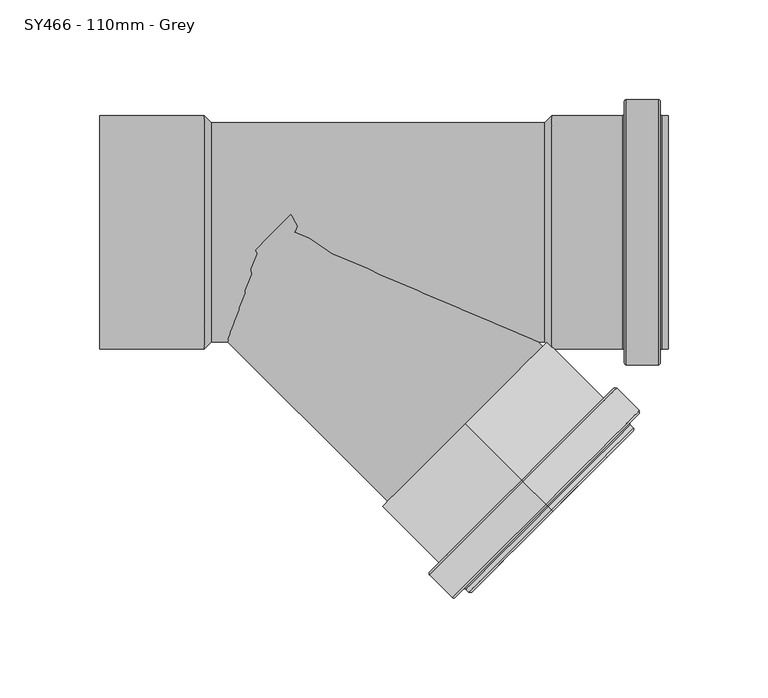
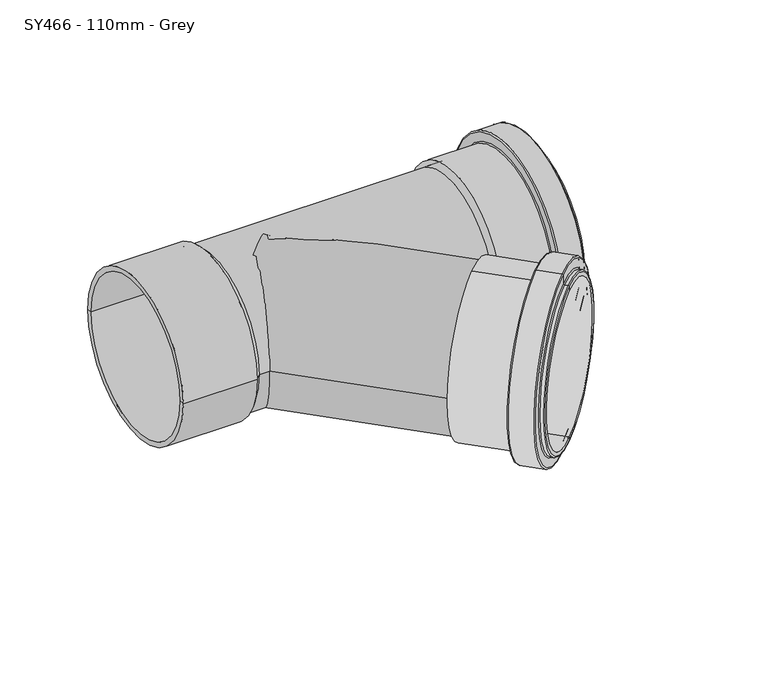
"""IFC4 building model written with IfcOpenShell, lengths in millimetres: pipe fitting geometry, MarleyPlumbingAndDrainage_PipeFitting_EqualBranch45PushFit : SY466 - 110mm - Grey."""

from ifc_helpers import new_model, si_unit, point, frame, origin, place, context, project, spatial, polyline, circle_curve, ellipse_curve, trimmed, source, transform, mapped, element, save
from ifc_brep_helpers import plane_surface, cylinder_surface, revolved_surface, advanced_brep


def sy466_110mm_grey_a51431d2(model_context):
    return source(origin(), model_context, "Body", "AdvancedBrep", [
        advanced_brep(
        [(-101.8253818, -58.5, 0.0), (-101.8253818, 58.5, 0.0), (-49.3253818, 58.5, 0.0), (-49.3253818, -58.5, 0.0), (-101.8253818, -55.0, 0.0), (-101.8253818, 55.0, 0.0), (-49.3253818, -55.0, 0.0), (-49.3253818, 55.0, 0.0), (-49.3253818, 0.0, 0.0), (-45.8253818, -55.0, 0.0), (-45.8253818, 55.0, 0.0), (-45.8253818, 0.0, 0.0)],
        [
            (0, 1, circle_curve(frame((-101.8253818, 0.0, 0.0), z_axis=(1.0, 0.0, 0.0), x_axis=(0.0, 1.0, 0.0)), 58.5)),
            (1, 2),
            (2, 3, circle_curve(frame((-49.3253818, 0.0, 0.0), z_axis=(-1.0, 0.0, 0.0), x_axis=(0.0, 1.0, 0.0)), 58.5)),
            (3, 0),
            (1, 0, circle_curve(frame((-101.8253818, 0.0, 0.0), z_axis=(1.0, 0.0, 0.0), x_axis=(0.0, 1.0, 0.0)), 58.5)),
            (3, 2, circle_curve(frame((-49.3253818, 0.0, 0.0), z_axis=(-1.0, 0.0, 0.0), x_axis=(0.0, 1.0, 0.0)), 58.5)),
            (4, 5, circle_curve(frame((-101.8253818, 0.0, 0.0), z_axis=(1.0, 0.0, 0.0), x_axis=(0.0, 1.0, 0.0)), 55.0)),
            (5, 1),
            (0, 4),
            (5, 4, circle_curve(frame((-101.8253818, 0.0, 0.0), z_axis=(1.0, 0.0, 0.0), x_axis=(0.0, 1.0, 0.0)), 55.0)),
            (6, 7, circle_curve(frame((-49.3253818, 0.0, 0.0), z_axis=(1.0, 0.0, 0.0), x_axis=(0.0, 1.0, 0.0)), 55.0)),
            (7, 5),
            (4, 6),
            (7, 6, circle_curve(frame((-49.3253818, 0.0, 0.0), z_axis=(1.0, 0.0, 0.0), x_axis=(0.0, 1.0, 0.0)), 55.0)),
            (8, 7),
            (6, 8),
            (9, 10, circle_curve(frame((-45.8253818, 0.0, 0.0), z_axis=(1.0, 0.0, 0.0), x_axis=(0.0, 1.0, 0.0)), 55.0)),
            (10, 11),
            (11, 9),
            (10, 9, circle_curve(frame((-45.8253818, 0.0, 0.0), z_axis=(1.0, 0.0, 0.0), x_axis=(0.0, 1.0, 0.0)), 55.0)),
            (2, 10),
            (9, 3),
        ],
        [
            cylinder_surface(frame((2035.7414062, 0.0, 0.0), z_axis=(-1.0, 0.0, 0.0), x_axis=(0.0, 1.0, 0.0)), 58.5),
            plane_surface(frame((-101.8253818, 0.0, 0.0), z_axis=(-1.0, 0.0, 0.0), x_axis=(0.0, 1.0, 0.0))),
            revolved_surface(polyline([(-101.82538180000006, 55.0, 0.0), (-49.32538180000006, 55.0, 0.0)]), (2035.7414062, 0.0, 0.0), (-1.0, 0.0, 0.0)),
            plane_surface(frame((-49.3253818, 0.0, 0.0), z_axis=(-1.0, 0.0, 0.0), x_axis=(0.0, 1.0, 0.0))),
            plane_surface(frame((-45.8253818, 0.0, 0.0), z_axis=(1.0, 0.0, 0.0), x_axis=(0.0, 1.0, 0.0))),
            revolved_surface(polyline([(-45.8253818, 55.0, 0.0), (-49.3253818, 58.5, 0.0)]), (2035.7414062, 0.0, 0.0), (-1.0, 0.0, 0.0)),
        ],
        [
            (0, [[1, 2, 3, 4]]),
            (0, [[5, -4, 6, -2]]),
            (1, [[7, 8, -1, 9]]),
            (1, [[10, -9, -5, -8]]),
            (2, [[11, 12, -7, 13]]),
            (2, [[14, -13, -10, -12]]),
            (3, [[15, -11, 16]]),
            (3, [[-16, -14, -15]]),
            (4, [[17, 18, 19]]),
            (4, [[20, -19, -18]]),
            (5, [[-3, 21, -17, 22]]),
            (5, [[-6, -22, -20, -21]]),
        ],
    ),
        advanced_brep(
        [(81.3411404, -96.1665222, -58.5), (81.3411404, -96.1665222, 58.5), (81.3411404, -96.1665222, 55.0), (81.3411404, -96.1665222, -55.0), (109.6254117, -124.4507935, -58.5), (109.6254117, -124.4507935, 58.5), (109.6254117, -124.4507935, -65.5), (109.6254117, -124.4507935, 65.5), (121.6462269, -136.4716088, -66.5), (121.6462269, -136.4716088, 66.5), (110.3325184, -125.1579003, 66.5), (110.3325184, -125.1579003, -66.5), (122.3533337, -137.1787156, -59.5), (122.3533337, -137.1787156, 59.5), (122.3533337, -137.1787156, 65.5), (122.3533337, -137.1787156, -65.5), (124.4746541, -139.3000359, -58.5), (124.4746541, -139.3000359, 58.5), (123.0604405, -137.8858223, 58.5), (123.0604405, -137.8858223, -58.5), (125.1817609, -140.0071427, -55.0), (125.1817609, -140.0071427, 55.0), (125.1817609, -140.0071427, 57.5), (125.1817609, -140.0071427, -57.5)],
        [
            (0, 1, circle_curve(frame((81.3411404, -96.1665222, 0.0), z_axis=(-0.7071067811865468, 0.7071067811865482, 0.0), x_axis=(0.0, 0.0, 1.0000000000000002)), 58.5)),
            (1, 2),
            (2, 3, circle_curve(frame((81.3411404, -96.1665222, 0.0), z_axis=(0.7071067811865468, -0.7071067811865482, 0.0), x_axis=(0.0, 0.0, 1.0000000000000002)), 55.0)),
            (3, 0),
            (1, 0, circle_curve(frame((81.3411404, -96.1665222, 0.0), z_axis=(-0.7071067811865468, 0.7071067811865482, 0.0), x_axis=(0.0, 0.0, 1.0000000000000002)), 58.5)),
            (3, 2, circle_curve(frame((81.3411404, -96.1665222, 0.0), z_axis=(0.7071067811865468, -0.7071067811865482, 0.0), x_axis=(0.0, 0.0, 1.0000000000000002)), 55.0)),
            (4, 5, circle_curve(frame((109.6254117, -124.4507935, 0.0), z_axis=(-0.7071067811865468, 0.7071067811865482, 0.0), x_axis=(0.0, 0.0, 1.0000000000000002)), 58.5)),
            (5, 1),
            (0, 4),
            (5, 4, circle_curve(frame((109.6254117, -124.4507935, 0.0), z_axis=(-0.7071067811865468, 0.7071067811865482, 0.0), x_axis=(0.0, 0.0, 1.0000000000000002)), 58.5)),
            (6, 7, circle_curve(frame((109.6254117, -124.4507935, 0.0), z_axis=(-0.7071067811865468, 0.7071067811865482, 0.0), x_axis=(0.0, 0.0, 1.0000000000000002)), 65.5)),
            (7, 5),
            (4, 6),
            (7, 6, circle_curve(frame((109.6254117, -124.4507935, 0.0), z_axis=(-0.7071067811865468, 0.7071067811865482, 0.0), x_axis=(0.0, 0.0, 1.0000000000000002)), 65.5)),
            (8, 9, circle_curve(frame((121.6462269, -136.4716088, 0.0), z_axis=(-0.7071067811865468, 0.7071067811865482, 0.0), x_axis=(0.0, 0.0, 1.0000000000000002)), 66.5)),
            (9, 10),
            (10, 11, circle_curve(frame((110.3325184, -125.1579003, 0.0), z_axis=(0.7071067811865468, -0.7071067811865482, 0.0), x_axis=(0.0, 0.0, 1.0000000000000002)), 66.5)),
            (11, 8),
            (9, 8, circle_curve(frame((121.6462269, -136.4716088, 0.0), z_axis=(-0.7071067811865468, 0.7071067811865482, 0.0), x_axis=(0.0, 0.0, 1.0000000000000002)), 66.5)),
            (11, 10, circle_curve(frame((110.3325184, -125.1579003, 0.0), z_axis=(0.7071067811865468, -0.7071067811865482, 0.0), x_axis=(0.0, 0.0, 1.0000000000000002)), 66.5)),
            (12, 13, circle_curve(frame((122.3533337, -137.1787156, 0.0), z_axis=(-0.7071067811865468, 0.7071067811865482, 0.0), x_axis=(0.0, 0.0, 1.0000000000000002)), 59.5)),
            (13, 14),
            (14, 15, circle_curve(frame((122.3533337, -137.1787156, 0.0), z_axis=(0.7071067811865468, -0.7071067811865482, 0.0), x_axis=(0.0, 0.0, 1.0000000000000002)), 65.5)),
            (15, 12),
            (13, 12, circle_curve(frame((122.3533337, -137.1787156, 0.0), z_axis=(-0.7071067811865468, 0.7071067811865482, 0.0), x_axis=(0.0, 0.0, 1.0000000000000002)), 59.5)),
            (15, 14, circle_curve(frame((122.3533337, -137.1787156, 0.0), z_axis=(0.7071067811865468, -0.7071067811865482, 0.0), x_axis=(0.0, 0.0, 1.0000000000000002)), 65.5)),
            (16, 17, circle_curve(frame((124.4746541, -139.3000359, 0.0), z_axis=(-0.7071067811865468, 0.7071067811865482, 0.0), x_axis=(0.0, 0.0, 1.0000000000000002)), 58.5)),
            (17, 18),
            (18, 19, circle_curve(frame((123.0604405, -137.8858223, 0.0), z_axis=(0.7071067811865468, -0.7071067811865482, 0.0), x_axis=(0.0, 0.0, 1.0000000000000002)), 58.5)),
            (19, 16),
            (17, 16, circle_curve(frame((124.4746541, -139.3000359, 0.0), z_axis=(-0.7071067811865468, 0.7071067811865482, 0.0), x_axis=(0.0, 0.0, 1.0000000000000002)), 58.5)),
            (19, 18, circle_curve(frame((123.0604405, -137.8858223, 0.0), z_axis=(0.7071067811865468, -0.7071067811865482, 0.0), x_axis=(0.0, 0.0, 1.0000000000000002)), 58.5)),
            (20, 21, circle_curve(frame((125.1817609, -140.0071427, 0.0), z_axis=(-0.7071067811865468, 0.7071067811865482, 0.0), x_axis=(0.0, 0.0, 1.0000000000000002)), 55.0)),
            (21, 22),
            (22, 23, circle_curve(frame((125.1817609, -140.0071427, 0.0), z_axis=(0.7071067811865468, -0.7071067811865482, 0.0), x_axis=(0.0, 0.0, 1.0000000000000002)), 57.5)),
            (23, 20),
            (21, 20, circle_curve(frame((125.1817609, -140.0071427, 0.0), z_axis=(-0.7071067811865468, 0.7071067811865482, 0.0), x_axis=(0.0, 0.0, 1.0000000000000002)), 55.0)),
            (23, 22, circle_curve(frame((125.1817609, -140.0071427, 0.0), z_axis=(0.7071067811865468, -0.7071067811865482, 0.0), x_axis=(0.0, 0.0, 1.0000000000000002)), 57.5)),
            (2, 21),
            (20, 3),
            (10, 7, circle_curve(frame((110.3325184, -125.1579003, 65.5), z_axis=(-0.7071067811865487, -0.7071067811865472, 0.0), x_axis=(0.4999999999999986, -0.4999999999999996, 0.7071067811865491)), 1.0)),
            (6, 11, circle_curve(frame((110.3325184, -125.1579003, -65.5), z_axis=(-0.7071067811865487, -0.7071067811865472, 0.0), x_axis=(0.5000000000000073, -0.5000000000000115, -0.7071067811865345)), 1.0)),
            (14, 9, circle_curve(frame((121.6462269, -136.4716088, 65.5), z_axis=(-0.7071067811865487, -0.7071067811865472, 0.0), x_axis=(0.4999999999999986, -0.4999999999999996, 0.7071067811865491)), 1.0)),
            (8, 15, circle_curve(frame((121.6462269, -136.4716088, -65.5), z_axis=(-0.7071067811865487, -0.7071067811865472, 0.0), x_axis=(0.5000000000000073, -0.5000000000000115, -0.7071067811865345)), 1.0)),
            (18, 13, circle_curve(frame((123.0604405, -137.8858223, 59.5), z_axis=(0.7071067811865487, 0.7071067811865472, 0.0), x_axis=(0.4999999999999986, -0.4999999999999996, 0.7071067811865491)), 1.0)),
            (12, 19, circle_curve(frame((123.0604405, -137.8858223, -59.5), z_axis=(0.7071067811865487, 0.7071067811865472, 0.0), x_axis=(0.5000000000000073, -0.5000000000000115, -0.7071067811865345)), 1.0)),
            (22, 17, circle_curve(frame((124.4746541, -139.3000359, 57.5), z_axis=(-0.7071067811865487, -0.7071067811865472, 0.0), x_axis=(0.4999999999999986, -0.4999999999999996, 0.7071067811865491)), 1.0)),
            (16, 23, circle_curve(frame((124.4746541, -139.3000359, -57.5), z_axis=(-0.7071067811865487, -0.7071067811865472, 0.0), x_axis=(0.5000000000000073, -0.5000000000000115, -0.7071067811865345)), 1.0)),
        ],
        [
            plane_surface(frame((81.3411404, -96.1665222, 0.0), z_axis=(-0.7071067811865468, 0.7071067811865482, 0.0), x_axis=(0.0, 0.0, 1.0))),
            cylinder_surface(frame((159.8299931, -174.655375, 0.0), z_axis=(0.7071067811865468, -0.7071067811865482, 0.0), x_axis=(0.0, 0.0, 1.0000000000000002)), 58.5),
            plane_surface(frame((109.6254117, -124.4507935, 0.0), z_axis=(-0.7071067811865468, 0.7071067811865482, 0.0), x_axis=(0.0, 0.0, 1.0))),
            cylinder_surface(frame((159.8299931, -174.655375, 0.0), z_axis=(0.7071067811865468, -0.7071067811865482, 0.0), x_axis=(0.0, 0.0, 1.0000000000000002)), 66.5),
            plane_surface(frame((122.3533337, -137.1787156, 0.0), z_axis=(0.7071067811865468, -0.7071067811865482, 0.0), x_axis=(0.0, 0.0, 1.0))),
            plane_surface(frame((125.1817609, -140.0071427, 0.0), z_axis=(0.7071067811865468, -0.7071067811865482, 0.0), x_axis=(0.0, 0.0, 1.0))),
            revolved_surface(polyline([(125.18176085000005, -140.00714274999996, 55.000000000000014), (81.34114035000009, -96.16652224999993, 55.000000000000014)]), (159.8299931, -174.655375, 0.0), (0.7071067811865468, -0.7071067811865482, 0.0)),
            revolved_surface(trimmed(ellipse_curve(frame((110.3325184, -125.1579003, 65.5), z_axis=(0.7071067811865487, 0.7071067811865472, 0.0), x_axis=(0.4999999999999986, -0.4999999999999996, 0.7071067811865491)), 1.0, 1.0), [point((109.6254117, -124.4507935, 65.5))], [point((110.3325184, -125.1579003, 66.5))], True, "CARTESIAN"), (159.8299931, -174.655375, 0.0), (0.7071067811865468, -0.7071067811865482, 0.0)),
            revolved_surface(trimmed(ellipse_curve(frame((110.3325184, -125.1579003, 65.5), z_axis=(0.7071067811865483, 0.7071067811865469, 0.0), x_axis=(0.4999999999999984, -0.4999999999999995, 0.7071067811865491)), 1.0, 1.0), [point((109.6254117, -124.4507935, 65.5))], [point((110.3325184, -125.1579003, 66.5))], True, "CARTESIAN"), (159.8299931, -174.655375, 0.0), (0.7071067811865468, -0.7071067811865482, 0.0)),
            revolved_surface(trimmed(ellipse_curve(frame((121.6462269, -136.4716088, 65.5), z_axis=(0.7071067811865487, 0.7071067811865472, 0.0), x_axis=(0.4999999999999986, -0.4999999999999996, 0.7071067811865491)), 1.0, 1.0), [point((121.6462269, -136.4716088, 66.5))], [point((122.3533337, -137.1787156, 65.5))], True, "CARTESIAN"), (159.8299931, -174.655375, 0.0), (0.7071067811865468, -0.7071067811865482, 0.0)),
            revolved_surface(trimmed(ellipse_curve(frame((121.6462269, -136.4716088, 65.5), z_axis=(0.7071067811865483, 0.7071067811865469, 0.0), x_axis=(0.4999999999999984, -0.4999999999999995, 0.7071067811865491)), 1.0, 1.0), [point((121.6462269, -136.4716088, 66.5))], [point((122.3533337, -137.1787156, 65.5))], True, "CARTESIAN"), (159.8299931, -174.655375, 0.0), (0.7071067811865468, -0.7071067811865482, 0.0)),
            revolved_surface(trimmed(ellipse_curve(frame((123.0604405, -137.8858223, 59.5), z_axis=(-0.7071067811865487, -0.7071067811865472, 0.0), x_axis=(0.4999999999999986, -0.4999999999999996, 0.7071067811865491)), 1.0, 1.0), [point((122.3533337, -137.1787156, 59.5))], [point((123.0604405, -137.8858223, 58.5))], True, "CARTESIAN"), (159.8299931, -174.655375, 0.0), (0.7071067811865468, -0.7071067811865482, 0.0)),
            revolved_surface(trimmed(ellipse_curve(frame((123.0604405, -137.8858223, 59.5), z_axis=(-0.7071067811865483, -0.7071067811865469, 0.0), x_axis=(0.4999999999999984, -0.4999999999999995, 0.7071067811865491)), 1.0, 1.0), [point((122.3533337, -137.1787156, 59.5))], [point((123.0604405, -137.8858223, 58.5))], True, "CARTESIAN"), (159.8299931, -174.655375, 0.0), (0.7071067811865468, -0.7071067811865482, 0.0)),
            revolved_surface(trimmed(ellipse_curve(frame((124.4746541, -139.3000359, 57.5), z_axis=(0.7071067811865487, 0.7071067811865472, 0.0), x_axis=(0.4999999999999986, -0.4999999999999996, 0.7071067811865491)), 1.0, 1.0), [point((124.4746541, -139.3000359, 58.5))], [point((125.1817609, -140.0071427, 57.5))], True, "CARTESIAN"), (159.8299931, -174.655375, 0.0), (0.7071067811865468, -0.7071067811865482, 0.0)),
            revolved_surface(trimmed(ellipse_curve(frame((124.4746541, -139.3000359, 57.5), z_axis=(0.7071067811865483, 0.7071067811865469, 0.0), x_axis=(0.4999999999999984, -0.4999999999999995, 0.7071067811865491)), 1.0, 1.0), [point((124.4746541, -139.3000359, 58.5))], [point((125.1817609, -140.0071427, 57.5))], True, "CARTESIAN"), (159.8299931, -174.655375, 0.0), (0.7071067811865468, -0.7071067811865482, 0.0)),
        ],
        [
            (0, [[1, 2, 3, 4]]),
            (0, [[5, -4, 6, -2]]),
            (1, [[7, 8, -1, 9]]),
            (1, [[10, -9, -5, -8]]),
            (2, [[11, 12, -7, 13]]),
            (2, [[14, -13, -10, -12]]),
            (3, [[15, 16, 17, 18]]),
            (3, [[19, -18, 20, -16]]),
            (4, [[21, 22, 23, 24]]),
            (4, [[25, -24, 26, -22]]),
            (1, [[27, 28, 29, 30]]),
            (1, [[31, -30, 32, -28]]),
            (5, [[33, 34, 35, 36]]),
            (5, [[37, -36, 38, -34]]),
            (6, [[-3, 39, -33, 40]]),
            (6, [[-6, -40, -37, -39]]),
            (7, [[-17, 41, -11, 42]]),
            (8, [[-20, -42, -14, -41]]),
            (9, [[-23, 43, -15, 44]]),
            (10, [[-26, -44, -19, -43]]),
            (11, [[-29, 45, -21, 46]]),
            (12, [[-32, -46, -25, -45]]),
            (13, [[-35, 47, -27, 48]]),
            (14, [[-38, -48, -31, -47]]),
        ],
    ),
        advanced_brep(
        [(-45.8253818, -31.0, 33.2114438), (24.0654911, 38.890873, 0.0), (-45.8253818, -31.0, -33.2114438), (-45.8253818, -31.0, 0.0), (42.4502675, -135.0573952, 0.0), (120.2320134, -57.2756493, 0.0), (-45.8253818, -46.7817459, 0.0)],
        [
            (0, 1, circle_curve(frame((-14.8253818, 0.0, 0.0), z_axis=(-0.7071067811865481, 0.7071067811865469, 0.0), x_axis=(0.7071067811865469, 0.7071067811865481, 0.0)), 55.0)),
            (1, 2, circle_curve(frame((-14.8253818, 0.0, 0.0), z_axis=(-0.7071067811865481, 0.7071067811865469, 0.0), x_axis=(0.7071067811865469, 0.7071067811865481, 0.0)), 55.0)),
            (2, 3),
            (3, 0),
            (4, 5, circle_curve(frame((81.3411404, -96.1665222, 0.0), z_axis=(0.7071067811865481, -0.7071067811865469, 0.0), x_axis=(0.7071067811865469, 0.7071067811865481, 0.0)), 55.0)),
            (5, 4, circle_curve(frame((81.3411404, -96.1665222, 0.0), z_axis=(0.7071067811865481, -0.7071067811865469, 0.0), x_axis=(0.7071067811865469, 0.7071067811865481, 0.0)), 55.0)),
            (5, 1),
            (0, 6, ellipse_curve(frame((-45.8253818, 31.0, 0.0), z_axis=(1.0, 0.0, 0.0), x_axis=(0.0, 1.0, 0.0)), 77.7817459, 55.0)),
            (6, 4),
            (6, 2, ellipse_curve(frame((-45.8253818, 31.0, 0.0), z_axis=(1.0, 0.0, 0.0), x_axis=(0.0, 1.0, 0.0)), 77.7817459, 55.0)),
            (6, 3),
        ],
        [
            plane_surface(frame((-14.8253818, 0.0, 0.0), z_axis=(-0.7071067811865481, 0.7071067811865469, 0.0), x_axis=(0.0, 0.0, 1.0))),
            plane_surface(frame((81.3411404, -96.1665222, 0.0), z_axis=(0.7071067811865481, -0.7071067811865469, 0.0), x_axis=(0.0, 0.0, 1.0))),
            cylinder_surface(frame((-14.8253818, 0.0, 0.0), z_axis=(-0.7071067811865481, 0.7071067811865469, 0.0), x_axis=(0.7071067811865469, 0.7071067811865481, 0.0)), 55.0),
            plane_surface(frame((-45.8253818, 0.0, 0.0), z_axis=(-1.0, 0.0, 0.0), x_axis=(0.0, 1.0, 0.0))),
        ],
        [
            (0, [[1, 2, 3, 4]]),
            (1, [[5, 6]]),
            (2, [[-6, 7, -1, 8, 9]]),
            (2, [[-5, -9, 10, -2, -7]]),
            (3, [[11, -3, -10]]),
            (3, [[-11, -8, -4]]),
        ],
    ),
        advanced_brep(
        [(180.1746182, -58.5, 0.0), (180.1746182, 58.5, 0.0), (183.1746182, 58.5, 0.0), (183.1746182, -58.5, 0.0), (179.1746182, -65.5, 0.0), (179.1746182, 65.5, 0.0), (179.1746182, 59.5, 0.0), (179.1746182, -59.5, 0.0), (162.1746182, -66.5, 0.0), (162.1746182, 66.5, 0.0), (178.1746182, 66.5, 0.0), (178.1746182, -66.5, 0.0), (161.1746182, -59.5, 0.0), (161.1746182, 59.5, 0.0), (161.1746182, 65.5, 0.0), (161.1746182, -65.5, 0.0), (124.6746182, -58.5, 0.0), (124.6746182, 58.5, 0.0), (160.1746182, 58.5, 0.0), (160.1746182, -58.5, 0.0), (121.1746182, -55.0, 0.0), (121.1746182, 55.0, 0.0), (-49.3253818, -55.0, 0.0), (-49.3253818, 55.0, 0.0), (-49.3253818, 0.0, 0.0), (124.6746182, -55.0, 0.0), (124.6746182, 55.0, 0.0), (124.6746182, 0.0, 0.0), (183.1746182, -55.0, 0.0), (183.1746182, 55.0, 0.0)],
        [
            (0, 1, circle_curve(frame((180.1746182, 0.0, 0.0), z_axis=(1.0, 0.0, 0.0), x_axis=(0.0, 1.0, 0.0)), 58.5)),
            (1, 2),
            (2, 3, circle_curve(frame((183.1746182, 0.0, 0.0), z_axis=(-1.0, 0.0, 0.0), x_axis=(0.0, 1.0, 0.0)), 58.5)),
            (3, 0),
            (1, 0, circle_curve(frame((180.1746182, 0.0, 0.0), z_axis=(1.0, 0.0, 0.0), x_axis=(0.0, 1.0, 0.0)), 58.5)),
            (3, 2, circle_curve(frame((183.1746182, 0.0, 0.0), z_axis=(-1.0, 0.0, 0.0), x_axis=(0.0, 1.0, 0.0)), 58.5)),
            (4, 5, circle_curve(frame((179.1746182, 0.0, 0.0), z_axis=(1.0, 0.0, 0.0), x_axis=(0.0, 1.0, 0.0)), 65.5)),
            (5, 6),
            (6, 7, circle_curve(frame((179.1746182, 0.0, 0.0), z_axis=(-1.0, 0.0, 0.0), x_axis=(0.0, 1.0, 0.0)), 59.5)),
            (7, 4),
            (5, 4, circle_curve(frame((179.1746182, 0.0, 0.0), z_axis=(1.0, 0.0, 0.0), x_axis=(0.0, 1.0, 0.0)), 65.5)),
            (7, 6, circle_curve(frame((179.1746182, 0.0, 0.0), z_axis=(-1.0, 0.0, 0.0), x_axis=(0.0, 1.0, 0.0)), 59.5)),
            (8, 9, circle_curve(frame((162.1746182, 0.0, 0.0), z_axis=(1.0, 0.0, 0.0), x_axis=(0.0, 1.0, 0.0)), 66.5)),
            (9, 10),
            (10, 11, circle_curve(frame((178.1746182, 0.0, 0.0), z_axis=(-1.0, 0.0, 0.0), x_axis=(0.0, 1.0, 0.0)), 66.5)),
            (11, 8),
            (9, 8, circle_curve(frame((162.1746182, 0.0, 0.0), z_axis=(1.0, 0.0, 0.0), x_axis=(0.0, 1.0, 0.0)), 66.5)),
            (11, 10, circle_curve(frame((178.1746182, 0.0, 0.0), z_axis=(-1.0, 0.0, 0.0), x_axis=(0.0, 1.0, 0.0)), 66.5)),
            (12, 13, circle_curve(frame((161.1746182, 0.0, 0.0), z_axis=(1.0, 0.0, 0.0), x_axis=(0.0, 1.0, 0.0)), 59.5)),
            (13, 14),
            (14, 15, circle_curve(frame((161.1746182, 0.0, 0.0), z_axis=(-1.0, 0.0, 0.0), x_axis=(0.0, 1.0, 0.0)), 65.5)),
            (15, 12),
            (13, 12, circle_curve(frame((161.1746182, 0.0, 0.0), z_axis=(1.0, 0.0, 0.0), x_axis=(0.0, 1.0, 0.0)), 59.5)),
            (15, 14, circle_curve(frame((161.1746182, 0.0, 0.0), z_axis=(-1.0, 0.0, 0.0), x_axis=(0.0, 1.0, 0.0)), 65.5)),
            (16, 17, circle_curve(frame((124.6746182, 0.0, 0.0), z_axis=(1.0, 0.0, 0.0), x_axis=(0.0, 1.0, 0.0)), 58.5)),
            (17, 18),
            (18, 19, circle_curve(frame((160.1746182, 0.0, 0.0), z_axis=(-1.0, 0.0, 0.0), x_axis=(0.0, 1.0, 0.0)), 58.5)),
            (19, 16),
            (17, 16, circle_curve(frame((124.6746182, 0.0, 0.0), z_axis=(1.0, 0.0, 0.0), x_axis=(0.0, 1.0, 0.0)), 58.5)),
            (19, 18, circle_curve(frame((160.1746182, 0.0, 0.0), z_axis=(-1.0, 0.0, 0.0), x_axis=(0.0, 1.0, 0.0)), 58.5)),
            (20, 21, circle_curve(frame((121.1746182, 0.0, 0.0), z_axis=(1.0, 0.0, 0.0), x_axis=(0.0, 1.0, 0.0)), 55.0)),
            (21, 17),
            (16, 20),
            (21, 20, circle_curve(frame((121.1746182, 0.0, 0.0), z_axis=(1.0, 0.0, 0.0), x_axis=(0.0, 1.0, 0.0)), 55.0)),
            (22, 23, circle_curve(frame((-49.3253818, 0.0, 0.0), z_axis=(1.0, 0.0, 0.0), x_axis=(0.0, 1.0, 0.0)), 55.0)),
            (23, 21),
            (20, 22),
            (23, 22, circle_curve(frame((-49.3253818, 0.0, 0.0), z_axis=(1.0, 0.0, 0.0), x_axis=(0.0, 1.0, 0.0)), 55.0)),
            (24, 23),
            (22, 24),
            (25, 26, circle_curve(frame((124.6746182, 0.0, 0.0), z_axis=(1.0, 0.0, 0.0), x_axis=(0.0, 1.0, 0.0)), 55.0)),
            (26, 27),
            (27, 25),
            (26, 25, circle_curve(frame((124.6746182, 0.0, 0.0), z_axis=(1.0, 0.0, 0.0), x_axis=(0.0, 1.0, 0.0)), 55.0)),
            (28, 29, circle_curve(frame((183.1746182, 0.0, 0.0), z_axis=(1.0, 0.0, 0.0), x_axis=(0.0, 1.0, 0.0)), 55.0)),
            (29, 26),
            (25, 28),
            (29, 28, circle_curve(frame((183.1746182, 0.0, 0.0), z_axis=(1.0, 0.0, 0.0), x_axis=(0.0, 1.0, 0.0)), 55.0)),
            (2, 29),
            (28, 3),
            (6, 1, circle_curve(frame((180.1746182, 59.5, 0.0), z_axis=(0.0, 0.0, 1.0), x_axis=(1.0, 0.0, 0.0)), 1.0)),
            (0, 7, circle_curve(frame((180.1746182, -59.5, 0.0), z_axis=(0.0, 0.0, 1.0), x_axis=(1.0, 0.0, 0.0)), 1.0)),
            (10, 5, circle_curve(frame((178.1746182, 65.5, 0.0), z_axis=(0.0, 0.0, -1.0), x_axis=(1.0, 0.0, 0.0)), 1.0)),
            (4, 11, circle_curve(frame((178.1746182, -65.5, 0.0), z_axis=(0.0, 0.0, -1.0), x_axis=(1.0, 0.0, 0.0)), 1.0)),
            (14, 9, circle_curve(frame((162.1746182, 65.5, 0.0), z_axis=(0.0, 0.0, -1.0), x_axis=(1.0, 0.0, 0.0)), 1.0)),
            (8, 15, circle_curve(frame((162.1746182, -65.5, 0.0), z_axis=(0.0, 0.0, -1.0), x_axis=(1.0, 0.0, 0.0)), 1.0)),
            (18, 13, circle_curve(frame((160.1746182, 59.5, 0.0), z_axis=(0.0, 0.0, 1.0), x_axis=(1.0, 0.0, 0.0)), 1.0)),
            (12, 19, circle_curve(frame((160.1746182, -59.5, 0.0), z_axis=(0.0, 0.0, 1.0), x_axis=(1.0, 0.0, 0.0)), 1.0)),
        ],
        [
            cylinder_surface(frame((1997.0, 0.0, 0.0), z_axis=(-1.0, 0.0, 0.0), x_axis=(0.0, 1.0, 0.0)), 58.5),
            plane_surface(frame((179.1746182, 0.0, 0.0), z_axis=(1.0, 0.0, 0.0), x_axis=(0.0, 1.0, 0.0))),
            cylinder_surface(frame((1997.0, 0.0, 0.0), z_axis=(-1.0, 0.0, 0.0), x_axis=(0.0, 1.0, 0.0)), 66.5),
            plane_surface(frame((161.1746182, 0.0, 0.0), z_axis=(-1.0, 0.0, 0.0), x_axis=(0.0, 1.0, 0.0))),
            revolved_surface(polyline([(124.6746182, 58.5, 0.0), (121.1746182, 55.0, 0.0)]), (1997.0, 0.0, 0.0), (-1.0, 0.0, 0.0)),
            cylinder_surface(frame((1997.0, 0.0, 0.0), z_axis=(-1.0, 0.0, 0.0), x_axis=(0.0, 1.0, 0.0)), 55.0),
            plane_surface(frame((-49.3253818, 0.0, 0.0), z_axis=(-1.0, 0.0, 0.0), x_axis=(0.0, 1.0, 0.0))),
            plane_surface(frame((124.6746182, 0.0, 0.0), z_axis=(1.0, 0.0, 0.0), x_axis=(0.0, 1.0, 0.0))),
            revolved_surface(polyline([(124.67461819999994, 55.0, 0.0), (183.17461819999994, 55.0, 0.0)]), (1997.0, 0.0, 0.0), (-1.0, 0.0, 0.0)),
            plane_surface(frame((183.1746182, 0.0, 0.0), z_axis=(1.0, 0.0, 0.0), x_axis=(0.0, 1.0, 0.0))),
            revolved_surface(trimmed(ellipse_curve(frame((180.1746182, 59.5, 0.0), z_axis=(0.0, 0.0, -1.0), x_axis=(1.0, 0.0, 0.0)), 1.0, 1.0), [point((180.1746182, 58.5, 0.0))], [point((179.1746182, 59.5, 0.0))], True, "CARTESIAN"), (1997.0, 0.0, 0.0), (-1.0, 0.0, 0.0)),
            revolved_surface(trimmed(ellipse_curve(frame((178.1746182, 65.5, 0.0), z_axis=(0.0, 0.0, 1.0), x_axis=(1.0, 0.0, 0.0)), 1.0, 1.0), [point((179.1746182, 65.5, 0.0))], [point((178.1746182, 66.5, 0.0))], True, "CARTESIAN"), (1997.0, 0.0, 0.0), (-1.0, 0.0, 0.0)),
            revolved_surface(trimmed(ellipse_curve(frame((162.1746182, 65.5, 0.0), z_axis=(0.0, 0.0, 1.0), x_axis=(1.0, 0.0, 0.0)), 1.0, 1.0), [point((162.1746182, 66.5, 0.0))], [point((161.1746182, 65.5, 0.0))], True, "CARTESIAN"), (1997.0, 0.0, 0.0), (-1.0, 0.0, 0.0)),
            revolved_surface(trimmed(ellipse_curve(frame((160.1746182, 59.5, 0.0), z_axis=(0.0, 0.0, -1.0), x_axis=(1.0, 0.0, 0.0)), 1.0, 1.0), [point((161.1746182, 59.5, 0.0))], [point((160.1746182, 58.5, 0.0))], True, "CARTESIAN"), (1997.0, 0.0, 0.0), (-1.0, 0.0, 0.0)),
        ],
        [
            (0, [[1, 2, 3, 4]]),
            (0, [[5, -4, 6, -2]]),
            (1, [[7, 8, 9, 10]]),
            (1, [[11, -10, 12, -8]]),
            (2, [[13, 14, 15, 16]]),
            (2, [[17, -16, 18, -14]]),
            (3, [[19, 20, 21, 22]]),
            (3, [[23, -22, 24, -20]]),
            (0, [[25, 26, 27, 28]]),
            (0, [[29, -28, 30, -26]]),
            (4, [[31, 32, -25, 33]]),
            (4, [[34, -33, -29, -32]]),
            (5, [[35, 36, -31, 37]]),
            (5, [[38, -37, -34, -36]]),
            (6, [[39, -35, 40]]),
            (6, [[-40, -38, -39]]),
            (7, [[41, 42, 43]]),
            (7, [[44, -43, -42]]),
            (8, [[45, 46, -41, 47]]),
            (8, [[48, -47, -44, -46]]),
            (9, [[-3, 49, -45, 50]]),
            (9, [[-6, -50, -48, -49]]),
            (10, [[-9, 51, -1, 52]]),
            (10, [[-12, -52, -5, -51]]),
            (11, [[-15, 53, -7, 54]]),
            (11, [[-18, -54, -11, -53]]),
            (12, [[-21, 55, -13, 56]]),
            (12, [[-24, -56, -17, -55]]),
            (13, [[-27, 57, -19, 58]]),
            (13, [[-30, -58, -23, -57]]),
        ],
    ),
    ])


if __name__ == "__main__":
    model = new_model("IFC4")
    model_context = context("Model", 3, world=origin())
    ifc_project = project(units=[si_unit("LENGTHUNIT", "METRE", prefix="MILLI")], contexts=[model_context])
    site = spatial("IfcSite", under=ifc_project)
    building = spatial("IfcBuilding", under=site)
    placement = place(None, origin())
    sy466_110mm_grey_shape = sy466_110mm_grey_a51431d2(model_context)
    element("IfcPipeFitting", 1, ObjectType="MarleyPlumbingAndDrainage_PipeFitting_EqualBranch45PushFit : SY466 - 110mm - Grey", at=placement, inside=building, context=model_context, shape_type="MappedRepresentation", body=[
        mapped(sy466_110mm_grey_shape, transform((0.0, 0.0, 0.0), x_axis=(1.0, 0.0, 0.0), y_axis=(0.0, 1.0, 0.0), z_axis=(0.0, 0.0, 1.0))),
    ])
    save(model, "model.ifc")
